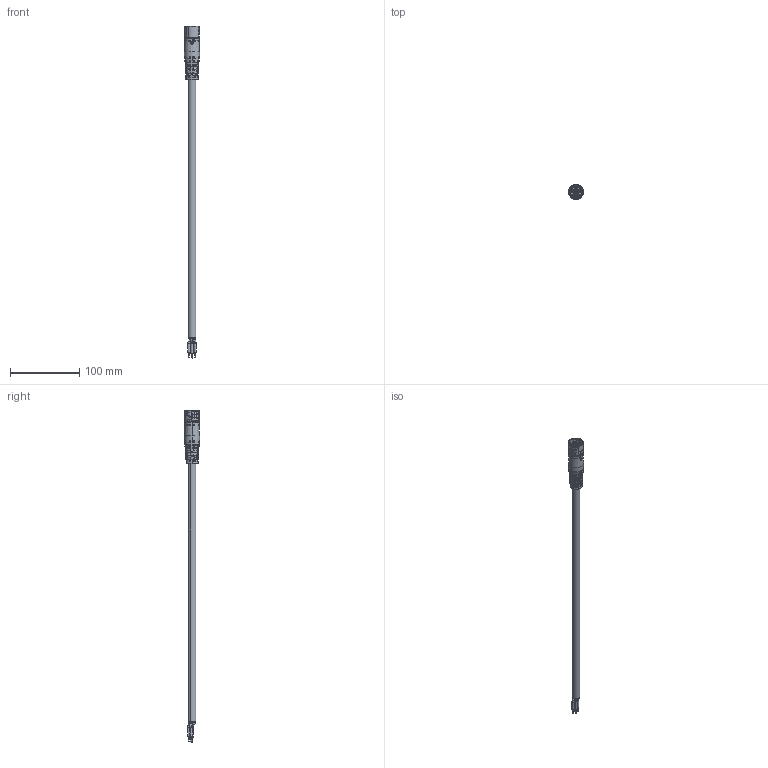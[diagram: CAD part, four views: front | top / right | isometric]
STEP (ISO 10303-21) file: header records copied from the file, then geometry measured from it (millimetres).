
FILE_DESCRIPTION (( 'STEP AP214' ), '1' );
FILE_NAME ('W-TEC 15K GLATT-BU 4x1,5_2,5.STEP', '2021-05-17T16:01:32', ( '' ), ( '' ), 'SwSTEP 2.0', 'SolidWorks 2021', '' );
FILE_SCHEMA (( 'AUTOMOTIVE_DESIGN' ));
Length unit declared in the file: millimetre
Products named in the file (1): W-TEC 15K GLATT-BU 4x1,5_2,5
Bounding box: 21.78 x 21.84 x 479.16 mm (x, y, z)
Surface area: 22300.4 mm2 (no closed solid volume)
Topology: 0 solids, 6 shells, 1756 faces, 4333 edges, 2810 vertices
Faces by surface type: cylinder 683, plane 575, bspline 440, cone 40, torus 18
Entity records: 98972 total; most frequent: CARTESIAN_POINT 41406, ORIENTED_EDGE 8368, DIRECTION 7196, EDGE_CURVE 4267, AXIS2_PLACEMENT_3D 2927, VERTEX_POINT 2810, EDGE_LOOP 2063, ADVANCED_FACE 1756
